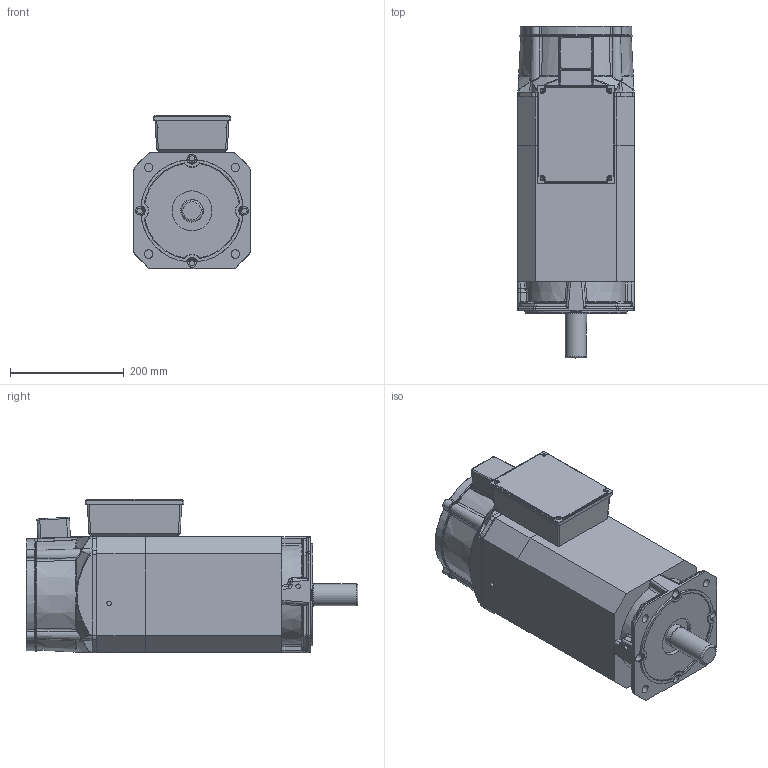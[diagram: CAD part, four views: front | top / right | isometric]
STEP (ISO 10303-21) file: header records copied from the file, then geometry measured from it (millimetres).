
FILE_DESCRIPTION(/* description */ (''),/* implementation_level */ '2;1');
FILE_NAME(/* name */ '204ZJY-4-7.5-15.stp',/* time_stamp */ '2024-01-15T15:23:21+08:00',/* author */ (''),/* organization */ (''),/* preprocessor_version */ 'ST-DEVELOPER v18.1',/* originating_system */ 'SIEMENS PLM Software NX 2000',/* authorisation */ '');
FILE_SCHEMA (('PROCESS_PLANNING_SCHEMA','AP242_MANAGED_MODEL_BASED_3D_ENGINEERING_MIM_LF { 1 0 10303 442 1 1 4 }'));
Products named in the file (1): 204ZJY-4-2.2-15电机外形图
Bounding box: 204 x 583 x 270 mm (x, y, z)
Volume: 14523702.4 mm3; surface area: 1065996.8 mm2
Topology: 9 solids, 9 shells, 1868 faces, 4653 edges, 2763 vertices
Faces by surface type: cylinder 743, torus 447, plane 355, bspline 248, cone 63, sphere 12
Full cylindrical faces by diameter (mm): 4 x10, 5 x10, 6 x10, 6.5 x4, 7 x8, 7.5 x4, 8 x4, 9.5 x8, 11 x8, 13.5 x2, 14.5 x4, 15 x5, 28 x1, 38 x1, 39.8 x1, 40 x1, 70 x1, 187 x1
Entity records: 61916 total; most frequent: CARTESIAN_POINT 21933, ORIENTED_EDGE 8866, DIRECTION 7419, EDGE_CURVE 4433, AXIS2_PLACEMENT_3D 3126, VERTEX_POINT 2704, EDGE_LOOP 2121, ADVANCED_FACE 1868
